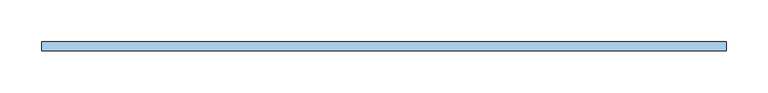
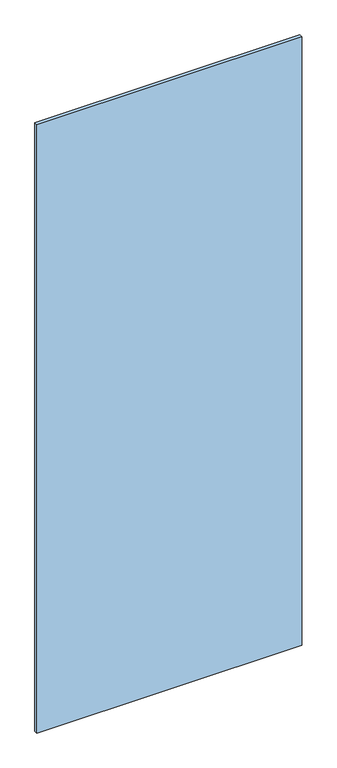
"""IFC4 building model written with IfcOpenShell, lengths in millimetres: window geometry, Baño 1 Fijo simple : CA07b-cancel baño-1 fijo de 0.8234."""

from ifc_helpers import new_model, si_unit, origin, origin_with_axes, place, context, project, spatial, polyline, outline, extrude, source, transform, mapped, element, save


def window_608fdc28(model_context):
    return source(origin(), model_context, "Body", "SweptSolid", [
        extrude(outline(polyline([(-411.7, -5.5), (-411.7, 5.5), (411.7, 5.5), (411.7, -5.5), (-411.7, -5.5)])), origin_with_axes(), (0.0, 0.0, 1.0), 2000.0),
    ])


if __name__ == "__main__":
    model = new_model("IFC4")
    model_context = context("Model", 3, world=origin())
    ifc_project = project(units=[si_unit("LENGTHUNIT", "METRE", prefix="MILLI")], contexts=[model_context])
    site = spatial("IfcSite", under=ifc_project)
    building = spatial("IfcBuilding", under=site)
    placement = place(None, origin())
    window_shape = window_608fdc28(model_context)
    element("IfcWindow", 1, ObjectType="Baño 1 Fijo simple : CA07b-cancel baño-1 fijo de 0.8234", at=placement, inside=building, context=model_context, shape_type="MappedRepresentation", body=[
        mapped(window_shape, transform((0.0, 0.0, 0.0), x_axis=(1.0, 0.0, 0.0), y_axis=(0.0, 1.0, 0.0), z_axis=(0.0, 0.0, 1.0))),
    ])
    save(model, "model.ifc")
